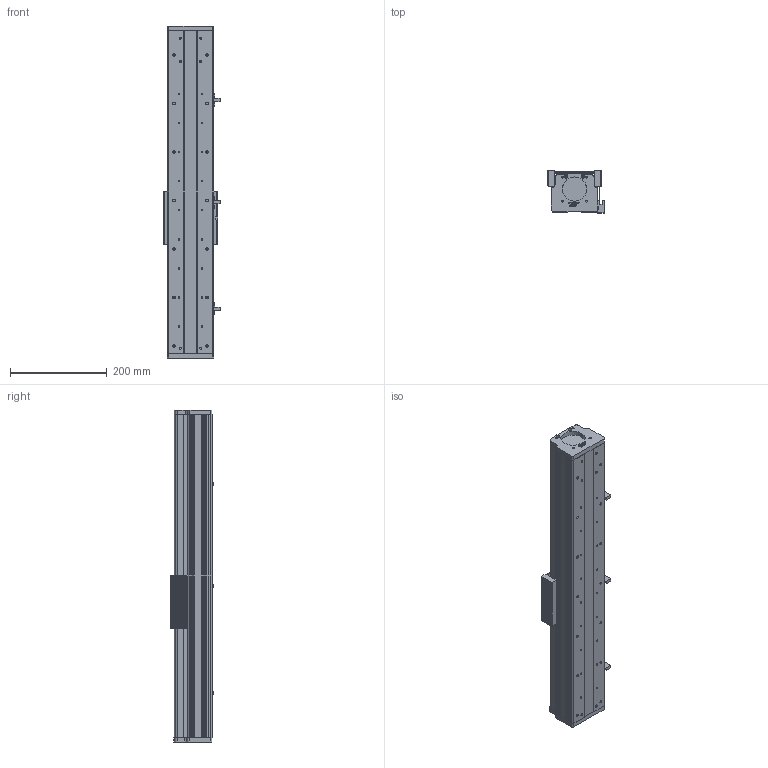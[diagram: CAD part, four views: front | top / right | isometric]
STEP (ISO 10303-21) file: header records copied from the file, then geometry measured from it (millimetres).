
FILE_DESCRIPTION (( 'STEP AP214' ), '1' );
FILE_NAME ('CF95B-C-400-FW.STEP', '2020-07-15T01:50:11', ( '微软用户' ), ( '微软中国' ), 'SwSTEP 2.0', 'SolidWorks 2016', '' );
FILE_SCHEMA (( 'AUTOMOTIVE_DESIGN' ));
Length unit declared in the file: millimetre
Products named in the file (17): 嫖萇羲壽; 75-86-95癹弇羲壽覜茼え; 95B珨极嘐隅釱; circlips for shaft--type a large gb_GB_CONNECTING_PIECE_RING_RRA 12; hexagon socket head cap screws gb_GB_FASTENER_SCREWS_HSHCS M6X25-N; curved single coil spring lock washers gb_GB_FASTENER_WASHER_CSLW 5; CF95B耜啣; hexagon socket head cap screws gb_GB_FASTENER_SCREWS_HSHCS M4X10-N; curved single coil spring lock washers gb_GB_FASTENER_WASHER_CSLW 4; 盓傅釱; CF95B裔啣-400; CF95B賑雄啣; CF95B蹟譫釱; EGH-15-CABZnew; EGR15-400; CF95B菁釱-400; CF95B-C-400-FW
Assembly tree (30 placements, depth 2):
  CF95B-C-400-FW
    CF95B菁釱-400
    EGR15-400  x2
    EGH-15-CABZnew  x2
    CF95B蹟譫釱
    CF95B賑雄啣
    CF95B裔啣-400
    盓傅釱
    curved single coil spring lock washers gb_GB_FASTENER_WASHER_CSLW 4  x4
    hexagon socket head cap screws gb_GB_FASTENER_SCREWS_HSHCS M4X10-N  x4
    CF95B耜啣
    curved single coil spring lock washers gb_GB_FASTENER_WASHER_CSLW 5  x4
    hexagon socket head cap screws gb_GB_FASTENER_SCREWS_HSHCS M6X25-N  x2
    circlips for shaft--type a large gb_GB_CONNECTING_PIECE_RING_RRA 12
    95B珨极嘐隅釱
    75-86-95癹弇羲壽覜茼え
    嫖萇羲壽  x3
Bounding box: 116.1 x 87.55 x 685 mm (x, y, z)
Volume: 2232981.9 mm3; surface area: 803165.8 mm2
Topology: 28 solids, 54 shells, 4558 faces, 16262 edges, 11084 vertices
Faces by surface type: plane 2209, bspline 1302, cylinder 797, cone 126, torus 76, sphere 48
Entity records: 145331 total; most frequent: CARTESIAN_POINT 51290, ORIENTED_EDGE 16506, DIRECTION 12636, EDGE_CURVE 9377, VERTEX_POINT 6395, VECTOR 5510, LINE 5510, AXIS2_PLACEMENT_3D 3563
